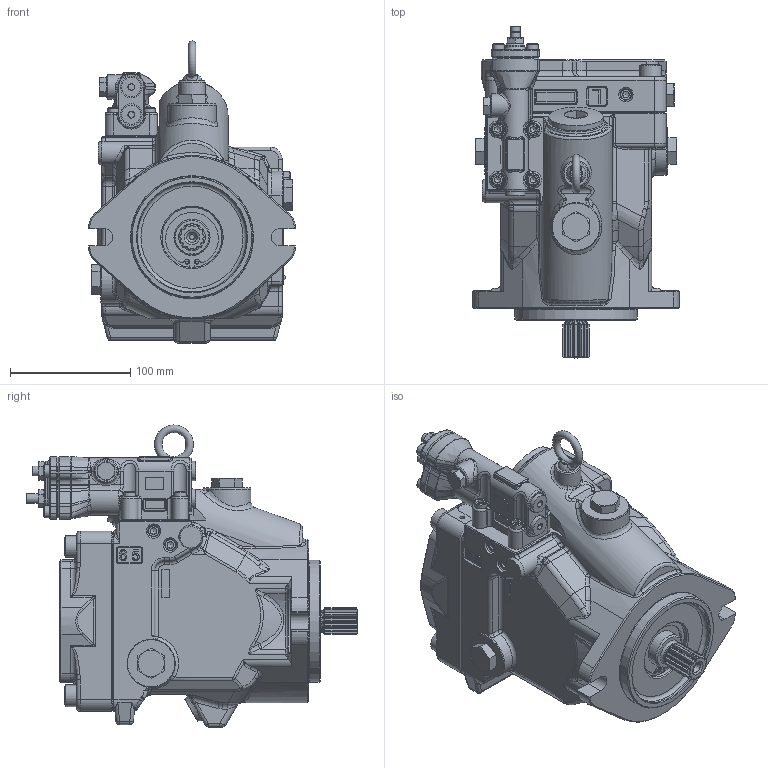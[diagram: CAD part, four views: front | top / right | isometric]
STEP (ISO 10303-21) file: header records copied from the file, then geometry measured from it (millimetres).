
FILE_DESCRIPTION(/* description */ (''),/* implementation_level */ '2;1');
FILE_NAME(/* name */ 'K3VLS65-1RLB#-##A.stp',/* time_stamp */ '2025-08-15T13:09:03+01:00',/* author */ ('jhatcher'),/* organization */ (''),/* preprocessor_version */ 'ST-DEVELOPER v20',/* originating_system */ 'Autodesk Inventor 2024',/* authorisation */ '');
FILE_SCHEMA (('AUTOMOTIVE_DESIGN { 1 0 10303 214 3 1 1 }'));
Products named in the file (1): K3VLS65-1RLB#-##A
Bounding box: 172 x 276 x 251.3 mm (x, y, z)
Volume: 4246531.9 mm3; surface area: 222281.1 mm2
Topology: 1 solids, 1 shells, 2526 faces, 6304 edges, 3848 vertices
Faces by surface type: plane 1107, bspline 514, cylinder 501, cone 282, torus 107, sphere 15
Full cylindrical faces by diameter (mm): 2.5 x2, 4 x4, 8 x2, 8.376 x4, 9.4 x3, 10 x8, 10.106 x4, 11 x8, 12 x3, 16 x2, 18 x7, 20 x5, 22 x1, 25 x2, 30 x1, 45 x1, 50 x2, 53 x1, 91 x1, 101.6 x1
Entity records: 93849 total; most frequent: CARTESIAN_POINT 35237, ORIENTED_EDGE 12442, DIRECTION 10761, EDGE_CURVE 6221, VERTEX_POINT 3848, AXIS2_PLACEMENT_3D 3819, LINE 3123, VECTOR 3123
